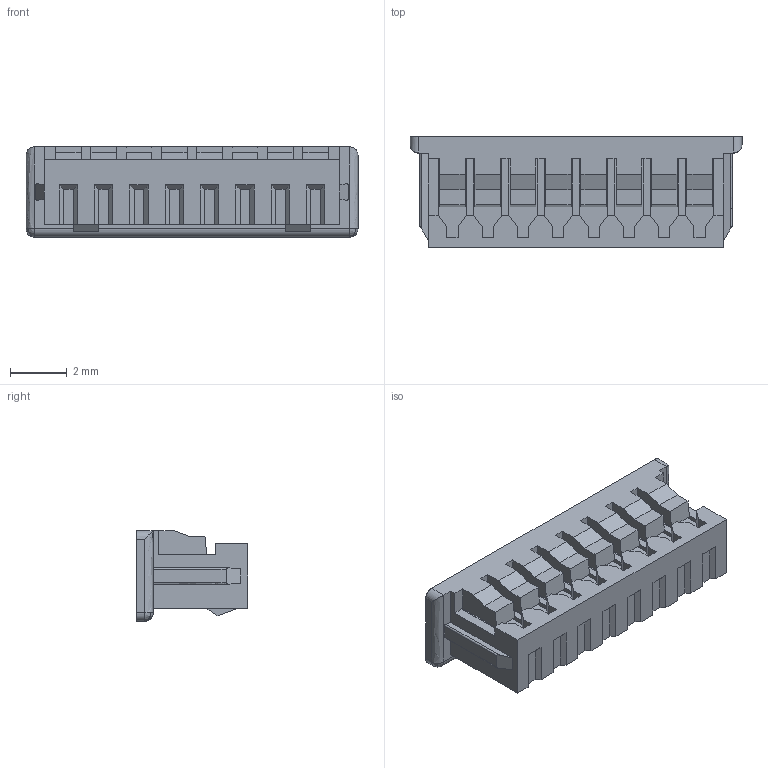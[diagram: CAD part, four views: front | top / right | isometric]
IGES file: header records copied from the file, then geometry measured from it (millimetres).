
Start section: SolidWorks IGES file using analytic representation for surfaces
Global section: file name: C:\Users\Administrator\Desktop\eRob 蟀諉ん\厙桴\molex 51021-0800(8P).IGS; native system: SolidWorks 2016; preprocessor: SolidWorks 2016; author: Administrator; date: 220221.175639; units: millimetre
Bounding box: 11.75 x 3.95 x 3.2 mm (x, y, z)
Surface area: 250.1 mm2 (no closed solid volume)
Topology: 0 solids, 0 shells, 409 faces, 2206 edges, 2202 vertices
Faces by surface type: bspline 396, revolution 13
